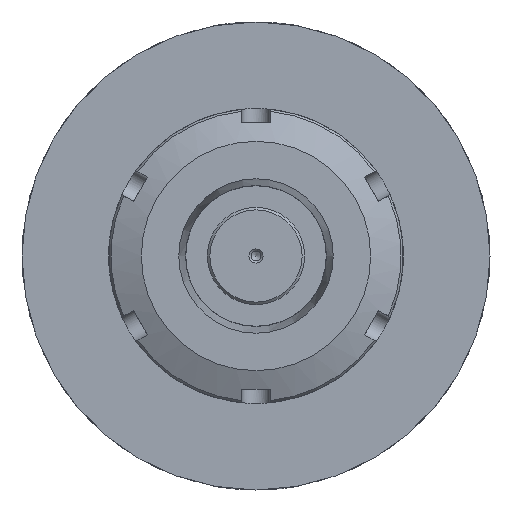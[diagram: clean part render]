
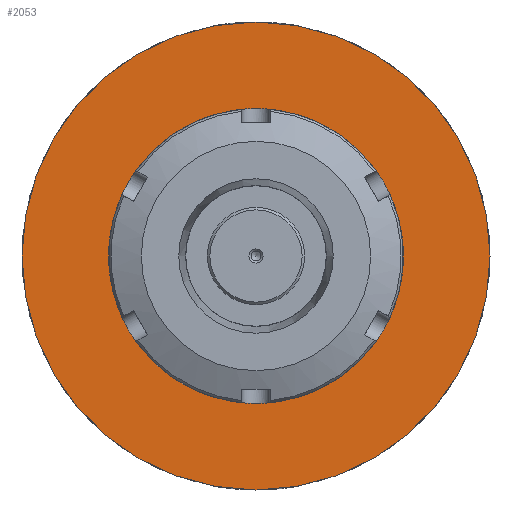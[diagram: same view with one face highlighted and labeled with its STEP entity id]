
A CAD part, front view. The second image highlights one B-rep face of the part: STEP entity #2053.
In plain terms, the highlighted planar face has unit normal (0, -1, 0).
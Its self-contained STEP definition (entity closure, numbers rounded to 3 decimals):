
#96=FACE_BOUND('',#362,.T.);
#184=PLANE('',#2292);
#245=FACE_OUTER_BOUND('',#361,.T.);
#361=EDGE_LOOP('',(#1497,#1498));
#362=EDGE_LOOP('',(#1499,#1500));
#488=CIRCLE('',#2280,50.);
#489=CIRCLE('',#2281,50.);
#490=CIRCLE('',#2283,27.5);
#495=CIRCLE('',#2288,27.5);
#887=VERTEX_POINT('',#3342);
#888=VERTEX_POINT('',#3343);
#889=VERTEX_POINT('',#3348);
#890=VERTEX_POINT('',#3349);
#1119=EDGE_CURVE('',#887,#888,#488,.T.);
#1120=EDGE_CURVE('',#888,#887,#489,.T.);
#1122=EDGE_CURVE('',#889,#890,#490,.T.);
#1127=EDGE_CURVE('',#890,#889,#495,.T.);
#1497=ORIENTED_EDGE('',*,*,#1119,.T.);
#1498=ORIENTED_EDGE('',*,*,#1120,.T.);
#1499=ORIENTED_EDGE('',*,*,#1122,.F.);
#1500=ORIENTED_EDGE('',*,*,#1127,.F.);
#2053=ADVANCED_FACE('',(#245,#96),#184,.T.);
#2280=AXIS2_PLACEMENT_3D('',#3344,#2611,#2612);
#2281=AXIS2_PLACEMENT_3D('',#3345,#2613,#2614);
#2283=AXIS2_PLACEMENT_3D('',#3350,#2618,#2619);
#2288=AXIS2_PLACEMENT_3D('',#3358,#2628,#2629);
#2292=AXIS2_PLACEMENT_3D('',#3365,#2637,#2638);
#2611=DIRECTION('center_axis',(0.,-1.,0.));
#2612=DIRECTION('ref_axis',(1.,0.,0.));
#2613=DIRECTION('center_axis',(0.,-1.,0.));
#2614=DIRECTION('ref_axis',(1.,0.,0.));
#2618=DIRECTION('center_axis',(0.,-1.,0.));
#2619=DIRECTION('ref_axis',(-1.,0.,0.));
#2628=DIRECTION('center_axis',(0.,-1.,0.));
#2629=DIRECTION('ref_axis',(-1.,0.,0.));
#2637=DIRECTION('center_axis',(0.,-1.,0.));
#2638=DIRECTION('ref_axis',(0.,0.,-1.));
#3342=CARTESIAN_POINT('',(50.,-38.,0.));
#3343=CARTESIAN_POINT('',(-50.,-38.,0.));
#3344=CARTESIAN_POINT('Origin',(0.,-38.,0.));
#3345=CARTESIAN_POINT('Origin',(0.,-38.,0.));
#3348=CARTESIAN_POINT('',(27.5,-38.,0.));
#3349=CARTESIAN_POINT('',(0.,-38.,27.5));
#3350=CARTESIAN_POINT('Origin',(0.,-38.,0.));
#3358=CARTESIAN_POINT('Origin',(0.,-38.,0.));
#3365=CARTESIAN_POINT('Origin',(25.,-38.,0.));
